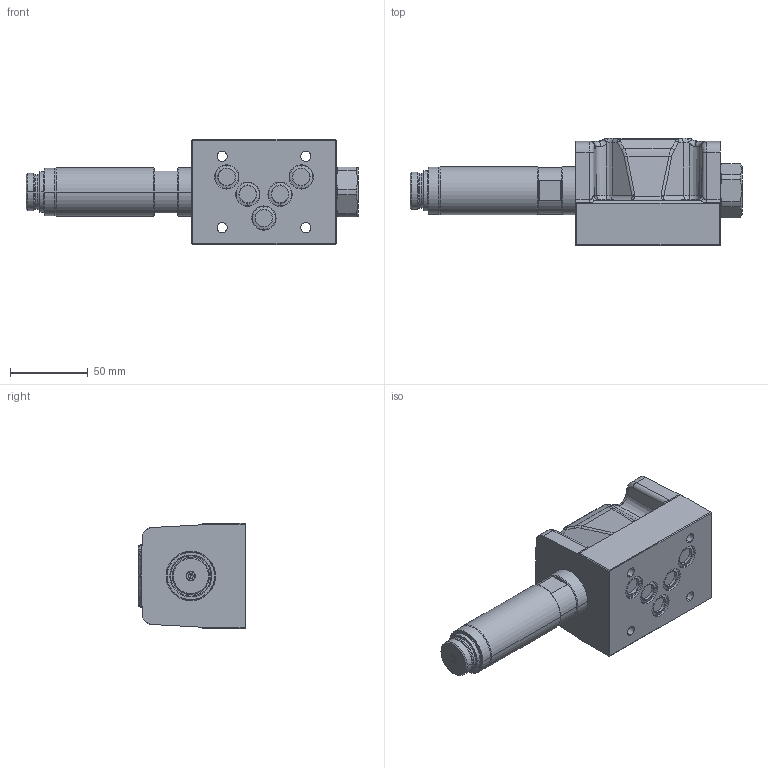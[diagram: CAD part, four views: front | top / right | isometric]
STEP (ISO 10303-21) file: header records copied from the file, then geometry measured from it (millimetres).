
FILE_DESCRIPTION (( 'STEP AP214' ), '1' );
FILE_NAME ('WDPFA10-4_2-Aside.STEP', '2015-10-06T13:28:03', ( '' ), ( '' ), 'SwSTEP 2.0', 'SolidWorks 2014', '' );
FILE_SCHEMA (( 'AUTOMOTIVE_DESIGN' ));
Length unit declared in the file: millimetre
Products named in the file (2): WDPFA10-4_2-Aside
Bounding box: 214.2 x 69.5 x 68 mm (x, y, z)
Volume: 441648.7 mm3; surface area: 51110.7 mm2
Topology: 1 solids, 1 shells, 845 faces, 2095 edges, 1274 vertices
Faces by surface type: plane 436, cylinder 217, bspline 110, cone 51, torus 31
Entity records: 37876 total; most frequent: CARTESIAN_POINT 9329, ORIENTED_EDGE 4170, DIRECTION 3838, EDGE_CURVE 2085, AXIS2_PLACEMENT_3D 1326, VERTEX_POINT 1274, LINE 1186, VECTOR 1186
